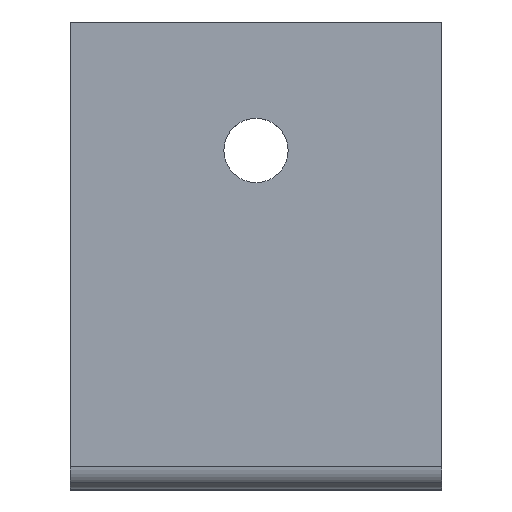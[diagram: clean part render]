
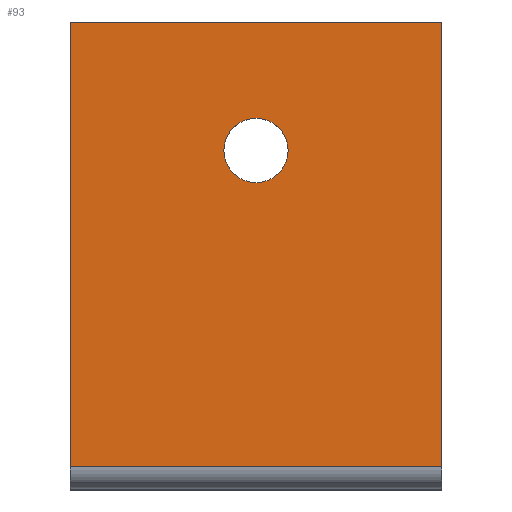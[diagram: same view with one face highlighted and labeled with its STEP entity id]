
A CAD part, top view. The second image highlights one B-rep face of the part: STEP entity #93.
In plain terms, the highlighted planar face has unit normal (0, 0, 1).
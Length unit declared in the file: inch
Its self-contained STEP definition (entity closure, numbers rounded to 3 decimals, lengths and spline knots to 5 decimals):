
#87=EDGE_CURVE('',#209,#210,#211,.T.);
#93=ADVANCED_FACE('',(#219,#220),#221,.T.);
#101=EDGE_CURVE('',#209,#233,#234,.T.);
#123=EDGE_CURVE('',#267,#233,#268,.T.);
#209=VERTEX_POINT('',#387);
#210=VERTEX_POINT('',#388);
#211=LINE('',#389,#390);
#219=FACE_OUTER_BOUND('',#405,.T.);
#220=FACE_BOUND('',#406,.T.);
#221=PLANE('',#407);
#233=VERTEX_POINT('',#422);
#234=LINE('',#423,#424);
#267=VERTEX_POINT('',#490);
#268=LINE('',#491,#492);
#387=CARTESIAN_POINT('',(0.,2.17756,1.87426));
#388=CARTESIAN_POINT('',(0.,0.231,1.87426));
#389=CARTESIAN_POINT('',(0.,2.17756,1.87426));
#390=VECTOR('',#594,1.0);
#405=EDGE_LOOP('',(#609,#610,#611,#612));
#406=EDGE_LOOP('',(#613,#614,#615,#616));
#407=AXIS2_PLACEMENT_3D('',#617,#618,#619);
#422=CARTESIAN_POINT('',(1.625,2.17756,1.87426));
#423=CARTESIAN_POINT('',(0.,2.17756,1.87426));
#424=VECTOR('',#637,1.0);
#490=CARTESIAN_POINT('',(1.625,0.231,1.87426));
#491=CARTESIAN_POINT('',(1.625,2.17756,1.87426));
#492=VECTOR('',#700,1.0);
#594=DIRECTION('',(0.0,-1.0,0.0));
#609=ORIENTED_EDGE('',*,*,#839,.F.);
#610=ORIENTED_EDGE('',*,*,#123,.T.);
#611=ORIENTED_EDGE('',*,*,#101,.F.);
#612=ORIENTED_EDGE('',*,*,#87,.T.);
#613=ORIENTED_EDGE('',*,*,#840,.T.);
#614=ORIENTED_EDGE('',*,*,#841,.T.);
#615=ORIENTED_EDGE('',*,*,#842,.T.);
#616=ORIENTED_EDGE('',*,*,#843,.T.);
#617=CARTESIAN_POINT('',(0.,1.15428,1.87426));
#618=DIRECTION('',(0.0,0.0,1.0));
#619=DIRECTION('',(0.0,-1.0,0.0));
#637=DIRECTION('',(1.0,0.0,0.0));
#700=DIRECTION('',(0.0,1.0,0.0));
#839=EDGE_CURVE('',#267,#210,#926,.T.);
#840=EDGE_CURVE('',#927,#928,#929,.T.);
#841=EDGE_CURVE('',#928,#930,#931,.T.);
#842=EDGE_CURVE('',#930,#932,#933,.T.);
#843=EDGE_CURVE('',#932,#927,#934,.T.);
#926=LINE('',#1051,#1052);
#927=VERTEX_POINT('',#1053);
#928=VERTEX_POINT('',#1054);
#929=B_SPLINE_CURVE_WITH_KNOTS('',3,(#1055,#1056,#1057,#1058),.UNSPECIFIED.,.F.,.F.,(4,4),(-1.0,-0.0),.UNSPECIFIED.);
#930=VERTEX_POINT('',#1059);
#931=B_SPLINE_CURVE_WITH_KNOTS('',3,(#1060,#1061,#1062,#1063),.UNSPECIFIED.,.F.,.F.,(4,4),(-1.0,-0.0),.UNSPECIFIED.);
#932=VERTEX_POINT('',#1064);
#933=B_SPLINE_CURVE_WITH_KNOTS('',3,(#1065,#1066,#1067,#1068),.UNSPECIFIED.,.F.,.F.,(4,4),(-1.0,-0.0),.UNSPECIFIED.);
#934=B_SPLINE_CURVE_WITH_KNOTS('',3,(#1069,#1070,#1071,#1072),.UNSPECIFIED.,.F.,.F.,(4,4),(-1.0,-0.0),.UNSPECIFIED.);
#1051=CARTESIAN_POINT('',(0.,0.231,1.87426));
#1052=VECTOR('',#1180,1.0);
#1053=CARTESIAN_POINT('',(0.67187,1.6149,1.87426));
#1054=CARTESIAN_POINT('',(0.8125,1.75553,1.87426));
#1055=CARTESIAN_POINT('',(0.67187,1.6149,1.87426));
#1056=CARTESIAN_POINT('',(0.67187,1.69256,1.87426));
#1057=CARTESIAN_POINT('',(0.73484,1.75553,1.87426));
#1058=CARTESIAN_POINT('',(0.8125,1.75553,1.87426));
#1059=CARTESIAN_POINT('',(0.95312,1.6149,1.87426));
#1060=CARTESIAN_POINT('',(0.8125,1.75553,1.87426));
#1061=CARTESIAN_POINT('',(0.89016,1.75553,1.87426));
#1062=CARTESIAN_POINT('',(0.95312,1.69256,1.87426));
#1063=CARTESIAN_POINT('',(0.95312,1.6149,1.87426));
#1064=CARTESIAN_POINT('',(0.8125,1.47428,1.87426));
#1065=CARTESIAN_POINT('',(0.95312,1.6149,1.87426));
#1066=CARTESIAN_POINT('',(0.95312,1.53724,1.87426));
#1067=CARTESIAN_POINT('',(0.89016,1.47428,1.87426));
#1068=CARTESIAN_POINT('',(0.8125,1.47428,1.87426));
#1069=CARTESIAN_POINT('',(0.8125,1.47428,1.87426));
#1070=CARTESIAN_POINT('',(0.73484,1.47428,1.87426));
#1071=CARTESIAN_POINT('',(0.67187,1.53724,1.87426));
#1072=CARTESIAN_POINT('',(0.67187,1.6149,1.87426));
#1180=DIRECTION('',(-1.0,-0.0,-0.0));
